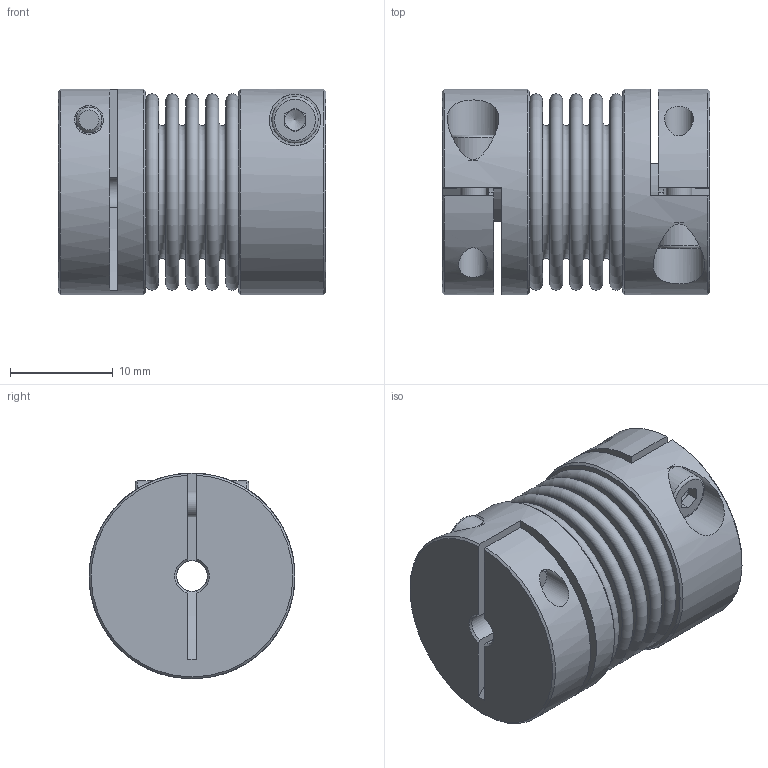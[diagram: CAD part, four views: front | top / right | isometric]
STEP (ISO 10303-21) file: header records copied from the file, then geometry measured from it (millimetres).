
FILE_DESCRIPTION(/* description */ ('STEP AP203'),/* implementation_level */ '2;1');
FILE_NAME(/* name */ 'KB2-15-26-3-3',/* time_stamp */ '2022-09-12T12:41:28+02:00',/* author */ ('License CC BY-ND 4.0'),/* organization */ ('CADENAS'),/* preprocessor_version */ 'ST-DEVELOPER v18.102',/* originating_system */ 'PARTsolutions',/* authorisation */ ' ');
FILE_SCHEMA (('CONFIG_CONTROL_DESIGN'));
Length unit declared in the file: millimetre
Products named in the file (1): KB2-15-26-3-3
Bounding box: 26 x 20 x 20 mm (x, y, z)
Volume: 5010.7 mm3; surface area: 6719.4 mm2
Topology: 1 solids, 1 shells, 122 faces, 262 edges, 170 vertices
Faces by surface type: plane 68, cylinder 22, torus 20, cone 12
Full cylindrical faces by diameter (mm): 2.5 x2, 2.8 x4, 3 x2, 4.5 x2, 5 x2, 13.56 x2, 20 x2
Entity records: 3068 total; most frequent: CARTESIAN_POINT 597, DIRECTION 532, ORIENTED_EDGE 404, AXIS2_PLACEMENT_3D 227, EDGE_CURVE 202, FACE_BOUND 198, EDGE_LOOP 196, VERTEX_POINT 156
